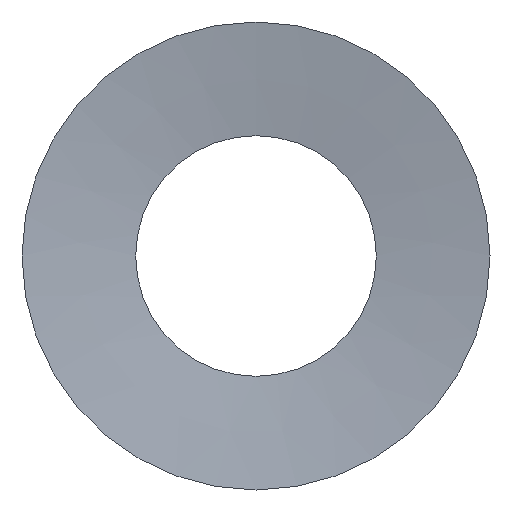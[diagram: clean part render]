
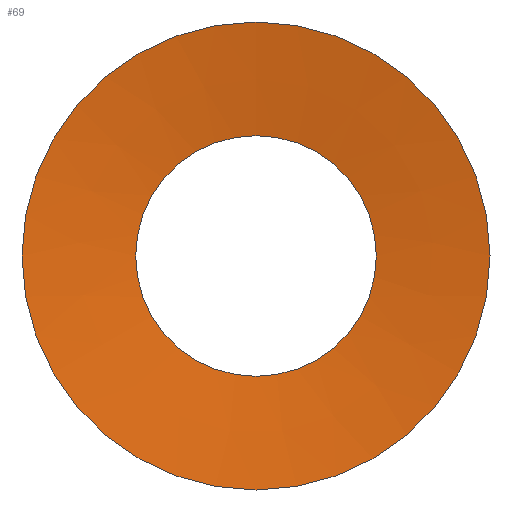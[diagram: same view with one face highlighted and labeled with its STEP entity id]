
A CAD part, front view. The second image highlights one B-rep face of the part: STEP entity #69.
In plain terms, the highlighted conical face has half-angle 81.863 degrees and reference radius 53 mm.
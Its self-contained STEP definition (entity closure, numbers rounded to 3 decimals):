
#19=FACE_OUTER_BOUND('',#23,.T.);
#23=EDGE_LOOP('',(#57,#58,#59,#60));
#27=LINE('',#137,#31);
#31=VECTOR('',#118,53.);
#35=CIRCLE('',#98,36.);
#36=CIRCLE('',#100,70.);
#39=VERTEX_POINT('',#132);
#40=VERTEX_POINT('',#136);
#45=EDGE_CURVE('',#39,#39,#35,.T.);
#46=EDGE_CURVE('',#39,#40,#27,.T.);
#47=EDGE_CURVE('',#40,#40,#36,.T.);
#57=ORIENTED_EDGE('',*,*,#45,.T.);
#58=ORIENTED_EDGE('',*,*,#46,.T.);
#59=ORIENTED_EDGE('',*,*,#47,.F.);
#60=ORIENTED_EDGE('',*,*,#46,.F.);
#66=CONICAL_SURFACE('',#99,53.,1.429);
#69=ADVANCED_FACE('',(#19),#66,.F.);
#98=AXIS2_PLACEMENT_3D('',#134,#114,#115);
#99=AXIS2_PLACEMENT_3D('',#135,#116,#117);
#100=AXIS2_PLACEMENT_3D('',#138,#119,#120);
#114=DIRECTION('center_axis',(0.,1.,0.));
#115=DIRECTION('ref_axis',(1.,0.,0.));
#116=DIRECTION('center_axis',(0.,-1.,0.));
#117=DIRECTION('ref_axis',(0.,0.,-1.));
#118=DIRECTION('',(0.,-0.142,0.99));
#119=DIRECTION('center_axis',(0.,1.,0.));
#120=DIRECTION('ref_axis',(1.,0.,0.));
#132=CARTESIAN_POINT('',(0.,4.861,36.));
#134=CARTESIAN_POINT('Origin',(0.,4.861,0.));
#135=CARTESIAN_POINT('Origin',(0.,2.431,0.));
#136=CARTESIAN_POINT('',(0.,0.,70.));
#137=CARTESIAN_POINT('',(0.,2.431,53.));
#138=CARTESIAN_POINT('Origin',(0.,0.,0.));
